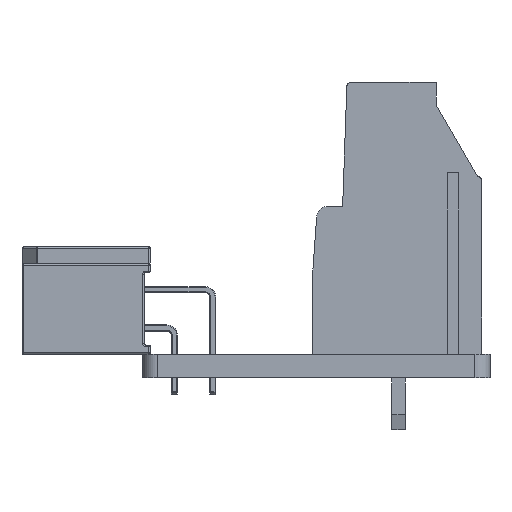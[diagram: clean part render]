
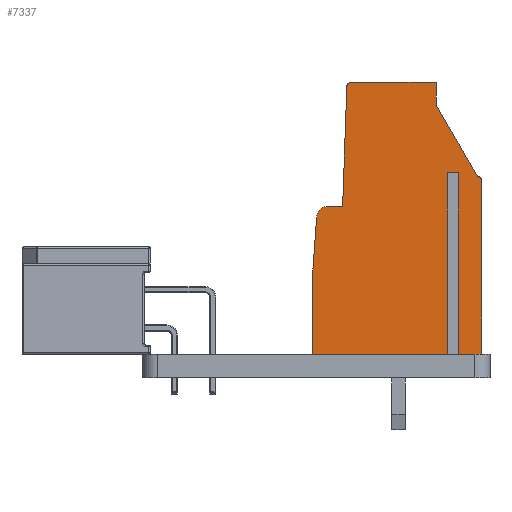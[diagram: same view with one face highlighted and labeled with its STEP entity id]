
A CAD part, left-side view. The second image highlights one B-rep face of the part: STEP entity #7337.
In plain terms, the highlighted planar face has unit normal (-1, 0, 0) as drawn and (0, 0, -1) by its records, which use the part's own axes.
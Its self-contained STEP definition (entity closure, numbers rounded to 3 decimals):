
#525=PLANE('',#8152);
#936=FACE_OUTER_BOUND('',#1425,.T.);
#1425=EDGE_LOOP('',(#6149,#6150,#6151,#6152,#6153,#6154,#6155,#6156,#6157,
#6158,#6159,#6160,#6161,#6162,#6163,#6164));
#1900=LINE('',#12445,#2522);
#1937=LINE('',#12547,#2559);
#1938=LINE('',#12549,#2560);
#1939=LINE('',#12553,#2561);
#1940=LINE('',#12555,#2562);
#1941=LINE('',#12557,#2563);
#1942=LINE('',#12558,#2564);
#1943=LINE('',#12560,#2565);
#1944=LINE('',#12562,#2566);
#1945=LINE('',#12564,#2567);
#1946=LINE('',#12568,#2568);
#1947=LINE('',#12570,#2569);
#1948=LINE('',#12572,#2570);
#2522=VECTOR('',#9877,1.);
#2559=VECTOR('',#9962,1.);
#2560=VECTOR('',#9963,1.);
#2561=VECTOR('',#9966,1.);
#2562=VECTOR('',#9967,1.);
#2563=VECTOR('',#9968,1.);
#2564=VECTOR('',#9969,1.);
#2565=VECTOR('',#9970,1.);
#2566=VECTOR('',#9971,1.);
#2567=VECTOR('',#9972,1.);
#2568=VECTOR('',#9975,1.);
#2569=VECTOR('',#9976,1.);
#2570=VECTOR('',#9977,1.);
#3106=CIRCLE('',#8153,0.8);
#3107=CIRCLE('',#8154,0.3);
#3108=CIRCLE('',#8155,0.3);
#3549=VERTEX_POINT('',#12442);
#3550=VERTEX_POINT('',#12444);
#3590=VERTEX_POINT('',#12545);
#3591=VERTEX_POINT('',#12546);
#3592=VERTEX_POINT('',#12548);
#3593=VERTEX_POINT('',#12550);
#3594=VERTEX_POINT('',#12552);
#3595=VERTEX_POINT('',#12554);
#3596=VERTEX_POINT('',#12556);
#3597=VERTEX_POINT('',#12559);
#3598=VERTEX_POINT('',#12561);
#3599=VERTEX_POINT('',#12563);
#3600=VERTEX_POINT('',#12565);
#3601=VERTEX_POINT('',#12567);
#3602=VERTEX_POINT('',#12569);
#3603=VERTEX_POINT('',#12571);
#4434=EDGE_CURVE('',#3549,#3550,#1900,.T.);
#4481=EDGE_CURVE('',#3590,#3591,#1937,.T.);
#4482=EDGE_CURVE('',#3591,#3592,#1938,.T.);
#4483=EDGE_CURVE('',#3593,#3592,#3106,.T.);
#4484=EDGE_CURVE('',#3593,#3594,#1939,.T.);
#4485=EDGE_CURVE('',#3594,#3595,#1940,.T.);
#4486=EDGE_CURVE('',#3596,#3595,#1941,.T.);
#4487=EDGE_CURVE('',#3596,#3550,#1942,.T.);
#4488=EDGE_CURVE('',#3549,#3597,#1943,.T.);
#4489=EDGE_CURVE('',#3598,#3597,#1944,.T.);
#4490=EDGE_CURVE('',#3598,#3599,#1945,.T.);
#4491=EDGE_CURVE('',#3600,#3599,#3107,.T.);
#4492=EDGE_CURVE('',#3600,#3601,#1946,.T.);
#4493=EDGE_CURVE('',#3601,#3602,#1947,.T.);
#4494=EDGE_CURVE('',#3602,#3603,#1948,.T.);
#4495=EDGE_CURVE('',#3590,#3603,#3108,.T.);
#6149=ORIENTED_EDGE('',*,*,#4481,.T.);
#6150=ORIENTED_EDGE('',*,*,#4482,.T.);
#6151=ORIENTED_EDGE('',*,*,#4483,.F.);
#6152=ORIENTED_EDGE('',*,*,#4484,.T.);
#6153=ORIENTED_EDGE('',*,*,#4485,.T.);
#6154=ORIENTED_EDGE('',*,*,#4486,.F.);
#6155=ORIENTED_EDGE('',*,*,#4487,.T.);
#6156=ORIENTED_EDGE('',*,*,#4434,.F.);
#6157=ORIENTED_EDGE('',*,*,#4488,.T.);
#6158=ORIENTED_EDGE('',*,*,#4489,.F.);
#6159=ORIENTED_EDGE('',*,*,#4490,.T.);
#6160=ORIENTED_EDGE('',*,*,#4491,.F.);
#6161=ORIENTED_EDGE('',*,*,#4492,.T.);
#6162=ORIENTED_EDGE('',*,*,#4493,.T.);
#6163=ORIENTED_EDGE('',*,*,#4494,.T.);
#6164=ORIENTED_EDGE('',*,*,#4495,.F.);
#7337=ADVANCED_FACE('',(#936),#525,.F.);
#8152=AXIS2_PLACEMENT_3D('',#12544,#9960,#9961);
#8153=AXIS2_PLACEMENT_3D('',#12551,#9964,#9965);
#8154=AXIS2_PLACEMENT_3D('',#12566,#9973,#9974);
#8155=AXIS2_PLACEMENT_3D('',#12573,#9978,#9979);
#9877=DIRECTION('',(1.,0.,0.));
#9960=DIRECTION('center_axis',(0.,0.,1.));
#9961=DIRECTION('ref_axis',(1.,0.,0.));
#9962=DIRECTION('',(0.035,-0.999,0.));
#9963=DIRECTION('',(1.,0.,0.));
#9964=DIRECTION('center_axis',(0.,0.,1.));
#9965=DIRECTION('ref_axis',(1.,0.,0.));
#9966=DIRECTION('',(0.069,-0.998,0.));
#9967=DIRECTION('',(0.,-1.,0.));
#9968=DIRECTION('',(1.,0.,0.));
#9969=DIRECTION('',(0.,1.,0.));
#9970=DIRECTION('',(0.,-1.,0.));
#9971=DIRECTION('',(1.,0.,0.));
#9972=DIRECTION('',(0.,1.,0.));
#9973=DIRECTION('center_axis',(0.,0.,1.));
#9974=DIRECTION('ref_axis',(1.,0.,0.));
#9975=DIRECTION('',(0.5,0.866,0.));
#9976=DIRECTION('',(0.,1.,0.));
#9977=DIRECTION('',(1.,0.,0.));
#9978=DIRECTION('center_axis',(0.,0.,1.));
#9979=DIRECTION('ref_axis',(1.,0.,0.));
#12442=CARTESIAN_POINT('',(-43.804,87.486,-7.5));
#12444=CARTESIAN_POINT('',(-43.39,87.486,-7.5));
#12445=CARTESIAN_POINT('',(0.,87.486,-7.5));
#12544=CARTESIAN_POINT('Origin',(0.,0.,-7.5));
#12545=CARTESIAN_POINT('',(-36.57,93.196,-7.5));
#12546=CARTESIAN_POINT('',(-36.294,85.286,-7.5));
#12547=CARTESIAN_POINT('',(-36.57,93.196,-7.5));
#12548=CARTESIAN_POINT('',(-35.364,85.286,-7.5));
#12549=CARTESIAN_POINT('',(-36.294,85.286,-7.5));
#12550=CARTESIAN_POINT('',(-34.566,84.541,-7.5));
#12551=CARTESIAN_POINT('Origin',(-35.364,84.486,-7.5));
#12552=CARTESIAN_POINT('',(-34.297,80.656,-7.5));
#12553=CARTESIAN_POINT('',(-34.566,84.541,-7.5));
#12554=CARTESIAN_POINT('',(-34.297,75.486,-7.5));
#12555=CARTESIAN_POINT('',(-34.297,80.656,-7.5));
#12556=CARTESIAN_POINT('',(-43.39,75.486,-7.5));
#12557=CARTESIAN_POINT('',(-45.497,75.486,-7.5));
#12558=CARTESIAN_POINT('',(-43.39,0.,-7.5));
#12559=CARTESIAN_POINT('',(-43.804,75.486,-7.5));
#12560=CARTESIAN_POINT('',(-43.804,0.,-7.5));
#12561=CARTESIAN_POINT('',(-45.497,75.486,-7.5));
#12562=CARTESIAN_POINT('',(-45.497,75.486,-7.5));
#12563=CARTESIAN_POINT('',(-45.497,86.986,-7.5));
#12564=CARTESIAN_POINT('',(-45.497,75.486,-7.5));
#12565=CARTESIAN_POINT('',(-45.197,87.286,-7.5));
#12566=CARTESIAN_POINT('Origin',(-45.197,86.986,-7.5));
#12567=CARTESIAN_POINT('',(-42.497,91.962,-7.5));
#12568=CARTESIAN_POINT('',(-45.197,87.286,-7.5));
#12569=CARTESIAN_POINT('',(-42.497,93.486,-7.5));
#12570=CARTESIAN_POINT('',(-42.497,91.962,-7.5));
#12571=CARTESIAN_POINT('',(-36.87,93.486,-7.5));
#12572=CARTESIAN_POINT('',(-42.497,93.486,-7.5));
#12573=CARTESIAN_POINT('Origin',(-36.87,93.186,-7.5));
